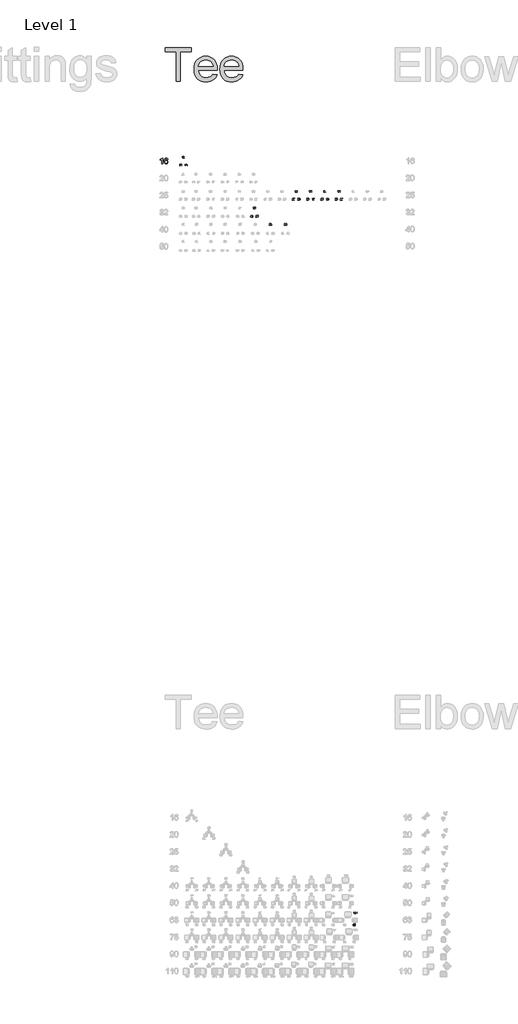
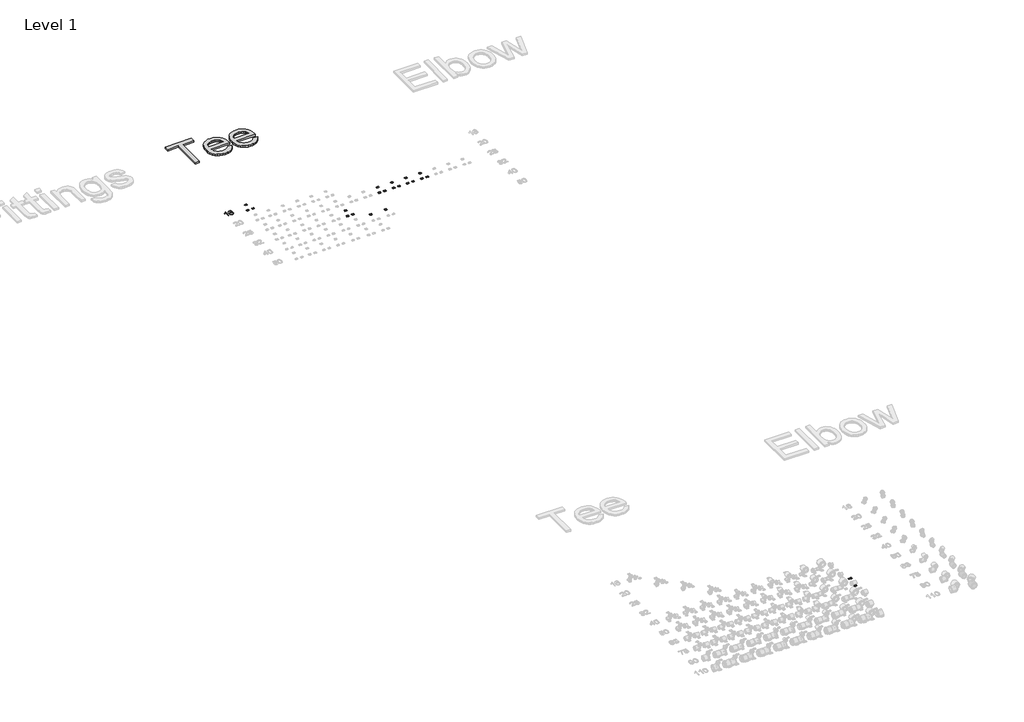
# One storey, part 31 of 58: 24 proxies.
"""IFC4 building model written with IfcOpenShell, lengths in millimetres."""

from ifc_helpers import new_model, si_unit, frame, origin, place, context, project, spatial, polyline, outline, extrude, element, save

model = new_model("IFC4")

# Units and contexts
model_context = context("Model", 3, world=origin())
ifc_project = project(units=[si_unit("LENGTHUNIT", "METRE", prefix="MILLI")], contexts=[model_context])

# Site, building, storey
site = spatial("IfcSite", under=ifc_project)
building = spatial("IfcBuilding", under=site)
storey = spatial("IfcBuildingStorey", under=building, Name="Level 1", Elevation=27.3876384)

# Proxies
placement = place(None, origin())
element("IfcBuildingElementProxy", 1, Name="100mm Arial", ObjectType="100mm Arial", at=placement, inside=storey, context=model_context, shape_type="SweptSolid", body=[
    extrude(outline(polyline([(12751.5703727, 30140.2967064), (12739.0133339, 30140.2967064), (12739.0133339, 30218.5819949), (12727.1184827, 30210.1084463), (12713.8992564, 30203.7686133), (12713.8992564, 30215.638939), (12732.3056189, 30227.3866373), (12743.4769688, 30240.7530165), (12751.5703727, 30240.7530165), (12751.5703727, 30140.2967064)])), frame((0.0, 0.0, 27.3876384), z_axis=(0.0, 0.0, 1.0), x_axis=(1.0, 0.0, 0.0)), (0.0, 0.0, 1.0), 2.0),
    extrude(outline(polyline([(12845.7481635, 30214.0693091), (12833.1911247, 30212.4996793), (12828.4331842, 30222.9720534), (12815.85162, 30228.1959777), (12804.5208545, 30225.1548199), (12795.949204, 30213.7382153), (12792.3807487, 30191.3587273), (12803.4539967, 30201.3773803), (12817.1759952, 30204.65153), (12828.7765407, 30202.4135812), (12838.5131509, 30195.6997348), (12845.1166327, 30185.4419585), (12847.3177933, 30172.5722201), (12843.1729895, 30155.2449781), (12831.7686476, 30142.9822449), (12815.3120597, 30138.7270765), (12801.0658295, 30141.5475051), (12789.7197356, 30150.008791), (12782.2977163, 30164.9448), (12779.8237099, 30187.189398), (12782.5705621, 30212.1992423), (12790.8111188, 30229.2996237), (12802.0621765, 30237.8896683), (12816.6364349, 30240.7530165), (12827.6545007, 30238.9810516), (12836.4775372, 30233.6651567), (12842.6579547, 30225.2222649), (12845.7481635, 30214.0693091)]), holes=[polyline([(12792.3807487, 30172.7684238), (12795.2870164, 30161.8913795), (12803.0125383, 30153.9941793), (12814.3310411, 30151.2841153), (12822.617583, 30152.6881982), (12829.13216, 30156.9004471), (12833.3536059, 30163.522323), (12834.7607545, 30172.1552871), (12833.372, 30180.4418291), (12829.2057364, 30186.7602023), (12822.5807948, 30190.760919), (12813.8160063, 30192.0944913), (12798.6224799, 30186.7602023), (12793.9411815, 30180.5951132), (12792.3807487, 30172.7684238)])]), frame((0.0, 0.0, 27.3876384), z_axis=(0.0, 0.0, 1.0), x_axis=(1.0, 0.0, 0.0)), (0.0, 0.0, 1.0), 2.0),
])
element("IfcBuildingElementProxy", 2, Name="30mm Arial", ObjectType="30mm Arial", at=placement, inside=storey, context=model_context, shape_type="SweptSolid", body=[
    extrude(outline(polyline([(13061.5669615, 30103.0942054), (13057.7998498, 30103.0942054), (13057.7998498, 30126.579792), (13054.2313945, 30124.0377274), (13050.2656266, 30122.1357775), (13050.2656266, 30125.6968752), (13055.7875353, 30129.2211847), (13059.1389403, 30133.2310985), (13061.5669615, 30133.2310985), (13061.5669615, 30103.0942054)])), frame((0.0, 0.0, 27.3876384), z_axis=(0.0, 0.0, 1.0), x_axis=(1.0, 0.0, 0.0)), (0.0, 0.0, 1.0), 2.0),
    extrude(outline(polyline([(13089.8202987, 30125.2259863), (13086.0531871, 30124.7550973), (13084.6258049, 30127.8968096), (13080.8513357, 30129.4639869), (13077.452106, 30128.5516395), (13074.8806109, 30125.1266581), (13073.8100743, 30118.4128117), (13077.1320487, 30121.4184076), (13081.2486482, 30122.4006525), (13087.6497949, 30119.715114), (13090.2911877, 30112.7768596), (13089.0477465, 30107.578687), (13085.626444, 30103.899867), (13080.6894676, 30102.6233165), (13073.0117703, 30106.0078308), (13070.0429626, 30117.1620129), (13073.3391853, 30129.7950807), (13081.0867801, 30133.2310985), (13087.0391108, 30131.1047406), (13089.8202987, 30125.2259863)]), holes=[polyline([(13073.8100743, 30112.8357207), (13074.6819546, 30109.5726074), (13076.9996112, 30107.2034473), (13080.395162, 30106.3904281), (13084.8354977, 30108.0753277), (13086.524076, 30112.6517797), (13084.8575706, 30117.0332542), (13080.2406516, 30118.6335409), (13075.6825936, 30117.0332542), (13073.8100743, 30112.8357207)])]), frame((0.0, 0.0, 27.3876384), z_axis=(0.0, 0.0, 1.0), x_axis=(1.0, 0.0, 0.0)), (0.0, 0.0, 1.0), 2.0),
])
element("IfcBuildingElementProxy", 3, Name="30mm Arial", ObjectType="30mm Arial", at=placement, inside=storey, context=model_context, shape_type="SweptSolid", body=[
    extrude(outline(polyline([(13155.3169615, 30103.0942054), (13151.5498498, 30103.0942054), (13151.5498498, 30126.579792), (13147.9813945, 30124.0377274), (13144.0156266, 30122.1357775), (13144.0156266, 30125.6968752), (13149.5375353, 30129.2211847), (13152.8889403, 30133.2310985), (13155.3169615, 30133.2310985), (13155.3169615, 30103.0942054)])), frame((0.0, 0.0, 27.3876384), z_axis=(0.0, 0.0, 1.0), x_axis=(1.0, 0.0, 0.0)), (0.0, 0.0, 1.0), 2.0),
    extrude(outline(polyline([(13183.5702987, 30125.2259863), (13179.8031871, 30124.7550973), (13178.3758049, 30127.8968096), (13174.6013357, 30129.4639869), (13171.202106, 30128.5516395), (13168.6306109, 30125.1266581), (13167.5600743, 30118.4128117), (13170.8820487, 30121.4184076), (13174.9986482, 30122.4006525), (13181.3997949, 30119.715114), (13184.0411877, 30112.7768596), (13182.7977465, 30107.578687), (13179.376444, 30103.899867), (13174.4394676, 30102.6233165), (13166.7617703, 30106.0078308), (13163.7929626, 30117.1620129), (13167.0891853, 30129.7950807), (13174.8367801, 30133.2310985), (13180.7891108, 30131.1047406), (13183.5702987, 30125.2259863)]), holes=[polyline([(13167.5600743, 30112.8357207), (13168.4319546, 30109.5726074), (13170.7496112, 30107.2034473), (13174.145162, 30106.3904281), (13178.5854977, 30108.0753277), (13180.274076, 30112.6517797), (13178.6075706, 30117.0332542), (13173.9906516, 30118.6335409), (13169.4325936, 30117.0332542), (13167.5600743, 30112.8357207)])]), frame((0.0, 0.0, 27.3876384), z_axis=(0.0, 0.0, 1.0), x_axis=(1.0, 0.0, 0.0)), (0.0, 0.0, 1.0), 2.0),
])
element("IfcBuildingElementProxy", 4, Name="30mm Arial", ObjectType="30mm Arial", at=placement, inside=storey, context=model_context, shape_type="SweptSolid", body=[
    extrude(outline(polyline([(13108.4951463, 30239.412846), (13104.7280347, 30239.412846), (13104.7280347, 30262.8984326), (13101.1595793, 30260.356368), (13097.1938114, 30258.4544181), (13097.1938114, 30262.0155158), (13102.7157201, 30265.5398253), (13106.0671251, 30269.549739), (13108.4951463, 30269.549739), (13108.4951463, 30239.412846)])), frame((0.0, 0.0, 27.3876384), z_axis=(0.0, 0.0, 1.0), x_axis=(1.0, 0.0, 0.0)), (0.0, 0.0, 1.0), 2.0),
    extrude(outline(polyline([(13136.7484835, 30261.5446268), (13132.9813719, 30261.0737379), (13131.5539897, 30264.2154501), (13127.7795205, 30265.7826274), (13124.3802908, 30264.8702801), (13121.8087957, 30261.4452987), (13120.7382591, 30254.7314523), (13124.0602335, 30257.7370482), (13128.176833, 30258.7192931), (13134.5779797, 30256.0337545), (13137.2193725, 30249.0955001), (13135.9759313, 30243.8973275), (13132.5546288, 30240.2185076), (13127.6176524, 30238.941957), (13119.9399552, 30242.3264714), (13116.9711475, 30253.4806535), (13120.2673701, 30266.1137212), (13128.0149649, 30269.549739), (13133.9672956, 30267.4233811), (13136.7484835, 30261.5446268)]), holes=[polyline([(13120.7382591, 30249.1543612), (13121.6101394, 30245.8912479), (13123.927796, 30243.5220879), (13127.3233468, 30242.7090687), (13131.7636825, 30244.3939682), (13133.4522608, 30248.9704202), (13131.7857554, 30253.3518948), (13127.1688364, 30254.9521815), (13122.6107784, 30253.3518948), (13120.7382591, 30249.1543612)])]), frame((0.0, 0.0, 27.3876384), z_axis=(0.0, 0.0, 1.0), x_axis=(1.0, 0.0, 0.0)), (0.0, 0.0, 1.0), 2.0),
])
element("IfcBuildingElementProxy", 5, Name="30mm Arial", ObjectType="30mm Arial", at=placement, inside=storey, context=model_context, shape_type="SweptSolid", body=[
    extrude(outline(polyline([(15053.1472365, 29506.8613171), (15053.1472365, 29503.0942054), (15033.3699005, 29503.0942054), (15033.7745707, 29505.6914523), (15036.0627967, 29509.6903296), (15040.7790438, 29514.0570889), (15047.2831975, 29520.3331557), (15048.9092359, 29524.6005869), (15047.375168, 29528.0549988), (15043.3689331, 29529.4639869), (15039.1934724, 29528.0881082), (15037.607901, 29524.2842084), (15033.8407894, 29524.7550973), (15036.7286631, 29531.0605947), (15043.4498671, 29533.2310985), (15050.1931441, 29530.8177926), (15052.6763476, 29524.8286737), (15052.0068023, 29521.2565395), (15049.7811163, 29517.5630043), (15044.3842874, 29512.4016199), (15040.0506375, 29508.7779823), (15038.3510227, 29506.8613171), (15053.1472365, 29506.8613171)])), frame((0.0, 0.0, 27.3876384), z_axis=(0.0, 0.0, 1.0), x_axis=(1.0, 0.0, 0.0)), (0.0, 0.0, 1.0), 2.0),
    extrude(outline(polyline([(15056.9143482, 29517.9198498), (15058.021673, 29526.5908285), (15061.310538, 29531.5903448), (15066.8030162, 29533.2310985), (15071.2028848, 29532.25989), (15074.2415901, 29529.460308), (15076.0074237, 29525.0015783), (15076.6916842, 29517.9198498), (15075.5953959, 29509.2856594), (15072.3175673, 29504.2751066), (15066.8030162, 29502.6233165), (15059.9162652, 29505.492796), (15056.9143482, 29517.9198498)]), holes=[polyline([(15060.6814598, 29517.9272075), (15062.4472934, 29508.5719683), (15066.8030162, 29506.3904281), (15071.158739, 29508.579326), (15072.9245726, 29517.9272075), (15071.2176001, 29527.1757608), (15066.7588703, 29529.4639869), (15062.5061545, 29527.4479935), (15060.6814598, 29517.9272075)])]), frame((0.0, 0.0, 27.3876384), z_axis=(0.0, 0.0, 1.0), x_axis=(1.0, 0.0, 0.0)), (0.0, 0.0, 1.0), 2.0),
])
element("IfcBuildingElementProxy", 6, Name="30mm Arial", ObjectType="30mm Arial", at=placement, inside=storey, context=model_context, shape_type="SweptSolid", body=[
    extrude(outline(polyline([(15146.8972365, 29506.8613171), (15146.8972365, 29503.0942054), (15127.1199005, 29503.0942054), (15127.5245707, 29505.6914523), (15129.8127967, 29509.6903296), (15134.5290438, 29514.0570889), (15141.0331975, 29520.3331557), (15142.6592359, 29524.6005869), (15141.125168, 29528.0549988), (15137.1189331, 29529.4639869), (15132.9434724, 29528.0881082), (15131.357901, 29524.2842084), (15127.5907894, 29524.7550973), (15130.4786631, 29531.0605947), (15137.1998671, 29533.2310985), (15143.9431441, 29530.8177926), (15146.4263476, 29524.8286737), (15145.7568023, 29521.2565395), (15143.5311163, 29517.5630043), (15138.1342874, 29512.4016199), (15133.8006375, 29508.7779823), (15132.1010227, 29506.8613171), (15146.8972365, 29506.8613171)])), frame((0.0, 0.0, 27.3876384), z_axis=(0.0, 0.0, 1.0), x_axis=(1.0, 0.0, 0.0)), (0.0, 0.0, 1.0), 2.0),
    extrude(outline(polyline([(15150.6643482, 29517.9198498), (15151.771673, 29526.5908285), (15155.060538, 29531.5903448), (15160.5530162, 29533.2310985), (15164.9528848, 29532.25989), (15167.9915901, 29529.460308), (15169.7574237, 29525.0015783), (15170.4416842, 29517.9198498), (15169.3453959, 29509.2856594), (15166.0675673, 29504.2751066), (15160.5530162, 29502.6233165), (15153.6662652, 29505.492796), (15150.6643482, 29517.9198498)]), holes=[polyline([(15154.4314598, 29517.9272075), (15156.1972934, 29508.5719683), (15160.5530162, 29506.3904281), (15164.908739, 29508.579326), (15166.6745726, 29517.9272075), (15164.9676001, 29527.1757608), (15160.5088703, 29529.4639869), (15156.2561545, 29527.4479935), (15154.4314598, 29517.9272075)])]), frame((0.0, 0.0, 27.3876384), z_axis=(0.0, 0.0, 1.0), x_axis=(1.0, 0.0, 0.0)), (0.0, 0.0, 1.0), 2.0),
])
element("IfcBuildingElementProxy", 7, Name="30mm Arial", ObjectType="30mm Arial", at=placement, inside=storey, context=model_context, shape_type="SweptSolid", body=[
    extrude(outline(polyline([(15100.0754213, 29643.1799576), (15100.0754213, 29639.412846), (15080.2980853, 29639.412846), (15080.7027555, 29642.0100929), (15082.9909815, 29646.0089702), (15087.7072287, 29650.3757295), (15094.2113823, 29656.6517963), (15095.8374207, 29660.9192274), (15094.3033528, 29664.3736394), (15090.2971179, 29665.7826274), (15086.1216573, 29664.4067488), (15084.5360859, 29660.6028489), (15080.7689742, 29661.0737379), (15083.6568479, 29667.3792353), (15090.3780519, 29669.549739), (15097.1213289, 29667.1364332), (15099.6045324, 29661.1473143), (15098.9349871, 29657.5751801), (15096.7093011, 29653.8816449), (15091.3124722, 29648.7202605), (15086.9788223, 29645.0966228), (15085.2792075, 29643.1799576), (15100.0754213, 29643.1799576)])), frame((0.0, 0.0, 27.3876384), z_axis=(0.0, 0.0, 1.0), x_axis=(1.0, 0.0, 0.0)), (0.0, 0.0, 1.0), 2.0),
    extrude(outline(polyline([(15103.842533, 29647.4179582), (15107.6096446, 29647.8888472), (15109.5079157, 29644.0076921), (15113.444253, 29642.7090687), (15118.1678579, 29644.5153693), (15119.8527574, 29649.3088717), (15118.2745436, 29653.7823167), (15113.5031142, 29655.4230704), (15110.195855, 29654.7682405), (15108.0805335, 29653.0686257), (15104.3134219, 29653.5395146), (15107.6096446, 29669.0788501), (15122.2072022, 29669.0788501), (15122.2072022, 29665.3117385), (15110.6557075, 29665.3117385), (15109.0443844, 29657.0123207), (15114.5552567, 29659.1901821), (15120.9968704, 29656.4899282), (15123.619869, 29649.5443161), (15121.2580666, 29642.5545582), (15113.4295378, 29638.941957), (15106.7819101, 29641.2632924), (15103.842533, 29647.4179582)])), frame((0.0, 0.0, 27.3876384), z_axis=(0.0, 0.0, 1.0), x_axis=(1.0, 0.0, 0.0)), (0.0, 0.0, 1.0), 2.0),
])
element("IfcBuildingElementProxy", 8, Name="30mm Arial", ObjectType="30mm Arial", at=placement, inside=storey, context=model_context, shape_type="SweptSolid", body=[
    extrude(outline(polyline([(15303.4273358, 29506.8613171), (15303.4273358, 29503.0942054), (15283.6499998, 29503.0942054), (15284.05467, 29505.6914523), (15286.342896, 29509.6903296), (15291.0591432, 29514.0570889), (15297.5632968, 29520.3331557), (15299.1893352, 29524.6005869), (15297.6552673, 29528.0549988), (15293.6490324, 29529.4639869), (15289.4735718, 29528.0881082), (15287.8880004, 29524.2842084), (15284.1208887, 29524.7550973), (15287.0087624, 29531.0605947), (15293.7299664, 29533.2310985), (15300.4732434, 29530.8177926), (15302.9564469, 29524.8286737), (15302.2869016, 29521.2565395), (15300.0612156, 29517.5630043), (15294.6643867, 29512.4016199), (15290.3307368, 29508.7779823), (15288.631122, 29506.8613171), (15303.4273358, 29506.8613171)])), frame((0.0, 0.0, 27.3876384), z_axis=(0.0, 0.0, 1.0), x_axis=(1.0, 0.0, 0.0)), (0.0, 0.0, 1.0), 2.0),
    extrude(outline(polyline([(15307.1944475, 29511.0993177), (15310.9615591, 29511.5702066), (15312.8598302, 29507.6890516), (15316.7961675, 29506.3904281), (15321.5197724, 29508.1967287), (15323.2046719, 29512.9902311), (15321.6264581, 29517.4636762), (15316.8550287, 29519.1044299), (15313.5477695, 29518.4495999), (15311.432448, 29516.7499851), (15307.6653364, 29517.2208741), (15310.9615591, 29532.7602095), (15325.5591167, 29532.7602095), (15325.5591167, 29528.9930979), (15314.007622, 29528.9930979), (15312.3962989, 29520.6936801), (15317.9071712, 29522.8715415), (15324.3487849, 29520.1712877), (15326.9717835, 29513.2256756), (15324.6099811, 29506.2359177), (15316.7814523, 29502.6233165), (15310.1338246, 29504.9446519), (15307.1944475, 29511.0993177)])), frame((0.0, 0.0, 27.3876384), z_axis=(0.0, 0.0, 1.0), x_axis=(1.0, 0.0, 0.0)), (0.0, 0.0, 1.0), 2.0),
])
element("IfcBuildingElementProxy", 9, Name="30mm Arial", ObjectType="30mm Arial", at=placement, inside=storey, context=model_context, shape_type="SweptSolid", body=[
    extrude(outline(polyline([(15391.9975573, 29503.0942054), (15388.2304457, 29503.0942054), (15388.2304457, 29526.579792), (15384.6619904, 29524.0377274), (15380.6962224, 29522.1357775), (15380.6962224, 29525.6968752), (15386.2181312, 29529.2211847), (15389.5695362, 29533.2310985), (15391.9975573, 29533.2310985), (15391.9975573, 29503.0942054)])), frame((0.0, 0.0, 27.3876384), z_axis=(0.0, 0.0, 1.0), x_axis=(1.0, 0.0, 0.0)), (0.0, 0.0, 1.0), 2.0),
    extrude(outline(polyline([(15420.2508946, 29525.2259863), (15416.4837829, 29524.7550973), (15415.0564008, 29527.8968096), (15411.2819315, 29529.4639869), (15407.8827019, 29528.5516395), (15405.3112067, 29525.1266581), (15404.2406701, 29518.4128117), (15407.5626446, 29521.4184076), (15411.6792441, 29522.4006525), (15418.0803908, 29519.715114), (15420.7217835, 29512.7768596), (15419.4783424, 29507.578687), (15416.0570398, 29503.899867), (15411.1200635, 29502.6233165), (15403.4423662, 29506.0078308), (15400.4735585, 29517.1620129), (15403.7697812, 29529.7950807), (15411.517376, 29533.2310985), (15417.4697067, 29531.1047406), (15420.2508946, 29525.2259863)]), holes=[polyline([(15404.2406701, 29512.8357207), (15405.1125505, 29509.5726074), (15407.430207, 29507.2034473), (15410.8257579, 29506.3904281), (15415.2660935, 29508.0753277), (15416.9546719, 29512.6517797), (15415.2881665, 29517.0332542), (15410.6712474, 29518.6335409), (15406.1131895, 29517.0332542), (15404.2406701, 29512.8357207)])]), frame((0.0, 0.0, 27.3876384), z_axis=(0.0, 0.0, 1.0), x_axis=(1.0, 0.0, 0.0)), (0.0, 0.0, 1.0), 2.0),
])
element("IfcBuildingElementProxy", 10, Name="30mm Arial", ObjectType="30mm Arial", at=placement, inside=storey, context=model_context, shape_type="SweptSolid", body=[
    extrude(outline(polyline([(15345.1757421, 29639.412846), (15341.4086305, 29639.412846), (15341.4086305, 29662.8984326), (15337.8401752, 29660.356368), (15333.8744073, 29658.4544181), (15333.8744073, 29662.0155158), (15339.396316, 29665.5398253), (15342.747721, 29669.549739), (15345.1757421, 29669.549739), (15345.1757421, 29639.412846)])), frame((0.0, 0.0, 27.3876384), z_axis=(0.0, 0.0, 1.0), x_axis=(1.0, 0.0, 0.0)), (0.0, 0.0, 1.0), 2.0),
    extrude(outline(polyline([(15373.4290794, 29661.5446268), (15369.6619677, 29661.0737379), (15368.2345856, 29664.2154501), (15364.4601163, 29665.7826274), (15361.0608867, 29664.8702801), (15358.4893916, 29661.4452987), (15357.4188549, 29654.7314523), (15360.7408294, 29657.7370482), (15364.8574289, 29658.7192931), (15371.2585756, 29656.0337545), (15373.8999683, 29649.0955001), (15372.6565272, 29643.8973275), (15369.2352246, 29640.2185076), (15364.2982483, 29638.941957), (15356.620551, 29642.3264714), (15353.6517433, 29653.4806535), (15356.947966, 29666.1137212), (15364.6955608, 29669.549739), (15370.6478915, 29667.4233811), (15373.4290794, 29661.5446268)]), holes=[polyline([(15357.4188549, 29649.1543612), (15358.2907353, 29645.8912479), (15360.6083918, 29643.5220879), (15364.0039427, 29642.7090687), (15368.4442783, 29644.3939682), (15370.1328567, 29648.9704202), (15368.4663513, 29653.3518948), (15363.8494322, 29654.9521815), (15359.2913743, 29653.3518948), (15357.4188549, 29649.1543612)])]), frame((0.0, 0.0, 27.3876384), z_axis=(0.0, 0.0, 1.0), x_axis=(1.0, 0.0, 0.0)), (0.0, 0.0, 1.0), 2.0),
])
element("IfcBuildingElementProxy", 11, Name="30mm Arial", ObjectType="30mm Arial", at=placement, inside=storey, context=model_context, shape_type="SweptSolid", body=[
    extrude(outline(polyline([(15553.7074351, 29506.8613171), (15553.7074351, 29503.0942054), (15533.9300991, 29503.0942054), (15534.3347693, 29505.6914523), (15536.6229953, 29509.6903296), (15541.3392425, 29514.0570889), (15547.8433961, 29520.3331557), (15549.4694346, 29524.6005869), (15547.9353666, 29528.0549988), (15543.9291317, 29529.4639869), (15539.7536711, 29528.0881082), (15538.1680997, 29524.2842084), (15534.400988, 29524.7550973), (15537.2888617, 29531.0605947), (15544.0100658, 29533.2310985), (15550.7533427, 29530.8177926), (15553.2365462, 29524.8286737), (15552.567001, 29521.2565395), (15550.3413149, 29517.5630043), (15544.944486, 29512.4016199), (15540.6108361, 29508.7779823), (15538.9112213, 29506.8613171), (15553.7074351, 29506.8613171)])), frame((0.0, 0.0, 27.3876384), z_axis=(0.0, 0.0, 1.0), x_axis=(1.0, 0.0, 0.0)), (0.0, 0.0, 1.0), 2.0),
    extrude(outline(polyline([(15557.4745468, 29511.0993177), (15561.2416584, 29511.5702066), (15563.1399295, 29507.6890516), (15567.0762668, 29506.3904281), (15571.7998717, 29508.1967287), (15573.4847712, 29512.9902311), (15571.9065574, 29517.4636762), (15567.135128, 29519.1044299), (15563.8278688, 29518.4495999), (15561.7125474, 29516.7499851), (15557.9454357, 29517.2208741), (15561.2416584, 29532.7602095), (15575.839216, 29532.7602095), (15575.839216, 29528.9930979), (15564.2877213, 29528.9930979), (15562.6763982, 29520.6936801), (15568.1872705, 29522.8715415), (15574.6288842, 29520.1712877), (15577.2518828, 29513.2256756), (15574.8900804, 29506.2359177), (15567.0615516, 29502.6233165), (15560.4139239, 29504.9446519), (15557.4745468, 29511.0993177)])), frame((0.0, 0.0, 27.3876384), z_axis=(0.0, 0.0, 1.0), x_axis=(1.0, 0.0, 0.0)), (0.0, 0.0, 1.0), 2.0),
])
element("IfcBuildingElementProxy", 12, Name="30mm Arial", ObjectType="30mm Arial", at=placement, inside=storey, context=model_context, shape_type="SweptSolid", body=[
    extrude(outline(polyline([(15642.2776567, 29503.0942054), (15638.510545, 29503.0942054), (15638.510545, 29526.579792), (15634.9420897, 29524.0377274), (15630.9763218, 29522.1357775), (15630.9763218, 29525.6968752), (15636.4982305, 29529.2211847), (15639.8496355, 29533.2310985), (15642.2776567, 29533.2310985), (15642.2776567, 29503.0942054)])), frame((0.0, 0.0, 27.3876384), z_axis=(0.0, 0.0, 1.0), x_axis=(1.0, 0.0, 0.0)), (0.0, 0.0, 1.0), 2.0),
    extrude(outline(polyline([(15670.5309939, 29525.2259863), (15666.7638823, 29524.7550973), (15665.3365001, 29527.8968096), (15661.5620308, 29529.4639869), (15658.1628012, 29528.5516395), (15655.5913061, 29525.1266581), (15654.5207695, 29518.4128117), (15657.8427439, 29521.4184076), (15661.9593434, 29522.4006525), (15668.3604901, 29519.715114), (15671.0018828, 29512.7768596), (15669.7584417, 29507.578687), (15666.3371391, 29503.899867), (15661.4001628, 29502.6233165), (15653.7224655, 29506.0078308), (15650.7536578, 29517.1620129), (15654.0498805, 29529.7950807), (15661.7974753, 29533.2310985), (15667.749806, 29531.1047406), (15670.5309939, 29525.2259863)]), holes=[polyline([(15654.5207695, 29512.8357207), (15655.3926498, 29509.5726074), (15657.7103064, 29507.2034473), (15661.1058572, 29506.3904281), (15665.5461928, 29508.0753277), (15667.2347712, 29512.6517797), (15665.5682658, 29517.0332542), (15660.9513467, 29518.6335409), (15656.3932888, 29517.0332542), (15654.5207695, 29512.8357207)])]), frame((0.0, 0.0, 27.3876384), z_axis=(0.0, 0.0, 1.0), x_axis=(1.0, 0.0, 0.0)), (0.0, 0.0, 1.0), 2.0),
])
element("IfcBuildingElementProxy", 13, Name="30mm Arial", ObjectType="30mm Arial", at=placement, inside=storey, context=model_context, shape_type="SweptSolid", body=[
    extrude(outline(polyline([(15600.6356199, 29643.1799576), (15600.6356199, 29639.412846), (15580.8582839, 29639.412846), (15581.2629541, 29642.0100929), (15583.5511801, 29646.0089702), (15588.2674273, 29650.3757295), (15594.7715809, 29656.6517963), (15596.3976194, 29660.9192274), (15594.8635514, 29664.3736394), (15590.8573165, 29665.7826274), (15586.6818559, 29664.4067488), (15585.0962845, 29660.6028489), (15581.3291728, 29661.0737379), (15584.2170465, 29667.3792353), (15590.9382506, 29669.549739), (15597.6815275, 29667.1364332), (15600.164731, 29661.1473143), (15599.4951858, 29657.5751801), (15597.2694997, 29653.8816449), (15591.8726708, 29648.7202605), (15587.5390209, 29645.0966228), (15585.8394061, 29643.1799576), (15600.6356199, 29643.1799576)])), frame((0.0, 0.0, 27.3876384), z_axis=(0.0, 0.0, 1.0), x_axis=(1.0, 0.0, 0.0)), (0.0, 0.0, 1.0), 2.0),
    extrude(outline(polyline([(15604.4027316, 29654.2384904), (15605.5100564, 29662.909469), (15608.7989214, 29667.9089853), (15614.2913996, 29669.549739), (15618.6912683, 29668.5785306), (15621.7299736, 29665.7789486), (15623.4958071, 29661.3202188), (15624.1800676, 29654.2384904), (15623.0837793, 29645.6043), (15619.8059507, 29640.5937472), (15614.2913996, 29638.941957), (15607.4046487, 29641.8114366), (15604.4027316, 29654.2384904)]), holes=[polyline([(15608.1698432, 29654.245848), (15609.9356768, 29644.8906089), (15614.2913996, 29642.7090687), (15618.6471224, 29644.8979666), (15620.412956, 29654.245848), (15618.7059836, 29663.4944014), (15614.2472538, 29665.7826274), (15609.9945379, 29663.7666341), (15608.1698432, 29654.245848)])]), frame((0.0, 0.0, 27.3876384), z_axis=(0.0, 0.0, 1.0), x_axis=(1.0, 0.0, 0.0)), (0.0, 0.0, 1.0), 2.0),
])
element("IfcBuildingElementProxy", 14, Name="30mm Arial", ObjectType="30mm Arial", at=placement, inside=storey, context=model_context, shape_type="SweptSolid", body=[
    extrude(outline(polyline([(15803.9875345, 29506.8613171), (15803.9875345, 29503.0942054), (15784.2101984, 29503.0942054), (15784.6148686, 29505.6914523), (15786.9030946, 29509.6903296), (15791.6193418, 29514.0570889), (15798.1234955, 29520.3331557), (15799.7495339, 29524.6005869), (15798.215466, 29528.0549988), (15794.209231, 29529.4639869), (15790.0337704, 29528.0881082), (15788.448199, 29524.2842084), (15784.6810873, 29524.7550973), (15787.568961, 29531.0605947), (15794.2901651, 29533.2310985), (15801.033442, 29530.8177926), (15803.5166455, 29524.8286737), (15802.8471003, 29521.2565395), (15800.6214142, 29517.5630043), (15795.2245853, 29512.4016199), (15790.8909354, 29508.7779823), (15789.1913206, 29506.8613171), (15803.9875345, 29506.8613171)])), frame((0.0, 0.0, 27.3876384), z_axis=(0.0, 0.0, 1.0), x_axis=(1.0, 0.0, 0.0)), (0.0, 0.0, 1.0), 2.0),
    extrude(outline(polyline([(15807.7546461, 29511.0993177), (15811.5217577, 29511.5702066), (15813.4200288, 29507.6890516), (15817.3563662, 29506.3904281), (15822.079971, 29508.1967287), (15823.7648705, 29512.9902311), (15822.1866568, 29517.4636762), (15817.4152273, 29519.1044299), (15814.1079681, 29518.4495999), (15811.9926467, 29516.7499851), (15808.225535, 29517.2208741), (15811.5217577, 29532.7602095), (15826.1193153, 29532.7602095), (15826.1193153, 29528.9930979), (15814.5678206, 29528.9930979), (15812.9564975, 29520.6936801), (15818.4673698, 29522.8715415), (15824.9089835, 29520.1712877), (15827.5319821, 29513.2256756), (15825.1701797, 29506.2359177), (15817.3416509, 29502.6233165), (15810.6940232, 29504.9446519), (15807.7546461, 29511.0993177)])), frame((0.0, 0.0, 27.3876384), z_axis=(0.0, 0.0, 1.0), x_axis=(1.0, 0.0, 0.0)), (0.0, 0.0, 1.0), 2.0),
])
element("IfcBuildingElementProxy", 15, Name="30mm Arial", ObjectType="30mm Arial", at=placement, inside=storey, context=model_context, shape_type="SweptSolid", body=[
    extrude(outline(polyline([(15897.7375345, 29506.8613171), (15897.7375345, 29503.0942054), (15877.9601984, 29503.0942054), (15878.3648686, 29505.6914523), (15880.6530946, 29509.6903296), (15885.3693418, 29514.0570889), (15891.8734955, 29520.3331557), (15893.4995339, 29524.6005869), (15891.965466, 29528.0549988), (15887.959231, 29529.4639869), (15883.7837704, 29528.0881082), (15882.198199, 29524.2842084), (15878.4310873, 29524.7550973), (15881.318961, 29531.0605947), (15888.0401651, 29533.2310985), (15894.783442, 29530.8177926), (15897.2666455, 29524.8286737), (15896.5971003, 29521.2565395), (15894.3714142, 29517.5630043), (15888.9745853, 29512.4016199), (15884.6409354, 29508.7779823), (15882.9413206, 29506.8613171), (15897.7375345, 29506.8613171)])), frame((0.0, 0.0, 27.3876384), z_axis=(0.0, 0.0, 1.0), x_axis=(1.0, 0.0, 0.0)), (0.0, 0.0, 1.0), 2.0),
    extrude(outline(polyline([(15901.5046461, 29517.9198498), (15902.6119709, 29526.5908285), (15905.9008359, 29531.5903448), (15911.3933141, 29533.2310985), (15915.7931828, 29532.25989), (15918.8318881, 29529.460308), (15920.5977216, 29525.0015783), (15921.2819821, 29517.9198498), (15920.1856938, 29509.2856594), (15916.9078652, 29504.2751066), (15911.3933141, 29502.6233165), (15904.5065632, 29505.492796), (15901.5046461, 29517.9198498)]), holes=[polyline([(15905.2717577, 29517.9272075), (15907.0375913, 29508.5719683), (15911.3933141, 29506.3904281), (15915.7490369, 29508.579326), (15917.5148705, 29517.9272075), (15915.8078981, 29527.1757608), (15911.3491683, 29529.4639869), (15907.0964524, 29527.4479935), (15905.2717577, 29517.9272075)])]), frame((0.0, 0.0, 27.3876384), z_axis=(0.0, 0.0, 1.0), x_axis=(1.0, 0.0, 0.0)), (0.0, 0.0, 1.0), 2.0),
])
element("IfcBuildingElementProxy", 16, Name="30mm Arial", ObjectType="30mm Arial", at=placement, inside=storey, context=model_context, shape_type="SweptSolid", body=[
    extrude(outline(polyline([(15845.7359408, 29639.412846), (15841.9688291, 29639.412846), (15841.9688291, 29662.8984326), (15838.4003738, 29660.356368), (15834.4346059, 29658.4544181), (15834.4346059, 29662.0155158), (15839.9565146, 29665.5398253), (15843.3079196, 29669.549739), (15845.7359408, 29669.549739), (15845.7359408, 29639.412846)])), frame((0.0, 0.0, 27.3876384), z_axis=(0.0, 0.0, 1.0), x_axis=(1.0, 0.0, 0.0)), (0.0, 0.0, 1.0), 2.0),
    extrude(outline(polyline([(15873.989278, 29661.5446268), (15870.2221664, 29661.0737379), (15868.7947842, 29664.2154501), (15865.020315, 29665.7826274), (15861.6210853, 29664.8702801), (15859.0495902, 29661.4452987), (15857.9790536, 29654.7314523), (15861.301028, 29657.7370482), (15865.4176275, 29658.7192931), (15871.8187742, 29656.0337545), (15874.460167, 29649.0955001), (15873.2167258, 29643.8973275), (15869.7954233, 29640.2185076), (15864.8584469, 29638.941957), (15857.1807496, 29642.3264714), (15854.2119419, 29653.4806535), (15857.5081646, 29666.1137212), (15865.2557594, 29669.549739), (15871.2080901, 29667.4233811), (15873.989278, 29661.5446268)]), holes=[polyline([(15857.9790536, 29649.1543612), (15858.8509339, 29645.8912479), (15861.1685905, 29643.5220879), (15864.5641413, 29642.7090687), (15869.004477, 29644.3939682), (15870.6930553, 29648.9704202), (15869.0265499, 29653.3518948), (15864.4096308, 29654.9521815), (15859.8515729, 29653.3518948), (15857.9790536, 29649.1543612)])]), frame((0.0, 0.0, 27.3876384), z_axis=(0.0, 0.0, 1.0), x_axis=(1.0, 0.0, 0.0)), (0.0, 0.0, 1.0), 2.0),
])
element("IfcBuildingElementProxy", 17, Name="30mm Arial", ObjectType="30mm Arial", at=placement, inside=storey, context=model_context, shape_type="SweptSolid", body=[
    extrude(outline(polyline([(14624.648577, 29069.9179582), (14628.4156886, 29070.3888472), (14630.4942219, 29066.4230793), (14634.3827346, 29065.2090687), (14638.9591866, 29066.8792529), (14640.6588014, 29071.0142466), (14638.9739019, 29074.9101169), (14634.6917554, 29076.4515425), (14632.0503627, 29076.0395146), (14632.4697482, 29079.8066262), (14637.3478635, 29080.8440535), (14639.2461345, 29084.1697067), (14637.8702559, 29087.1164415), (14634.3238735, 29088.2826274), (14630.7333452, 29087.105405), (14628.8865776, 29083.5737379), (14625.1194659, 29084.0446268), (14628.2023171, 29089.9528117), (14634.1914359, 29092.049739), (14638.7347786, 29091.0159906), (14641.913279, 29088.1906569), (14643.0132462, 29084.3904359), (14641.9684613, 29080.9176299), (14638.8782526, 29078.4233899), (14642.9838156, 29075.848216), (14644.425913, 29070.9480278), (14641.5417182, 29064.2084297), (14634.2502971, 29061.441957), (14627.6431364, 29063.8037595), (14624.648577, 29069.9179582)])), frame((0.0, 0.0, 27.3876384), z_axis=(0.0, 0.0, 1.0), x_axis=(1.0, 0.0, 0.0)), (0.0, 0.0, 1.0), 2.0),
    extrude(outline(polyline([(14667.0285828, 29065.6799576), (14667.0285828, 29061.912846), (14647.2512468, 29061.912846), (14647.655917, 29064.5100929), (14649.944143, 29068.5089702), (14654.6603901, 29072.8757295), (14661.1645438, 29079.1517963), (14662.7905822, 29083.4192274), (14661.2565143, 29086.8736394), (14657.2502794, 29088.2826274), (14653.0748187, 29086.9067488), (14651.4892473, 29083.1028489), (14647.7221357, 29083.5737379), (14650.6100094, 29089.8792353), (14657.3312134, 29092.049739), (14664.0744904, 29089.6364332), (14666.5576939, 29083.6473143), (14665.8881486, 29080.0751801), (14663.6624626, 29076.3816449), (14658.2656337, 29071.2202605), (14653.9319838, 29067.5966228), (14652.232369, 29065.6799576), (14667.0285828, 29065.6799576)])), frame((0.0, 0.0, 27.3876384), z_axis=(0.0, 0.0, 1.0), x_axis=(1.0, 0.0, 0.0)), (0.0, 0.0, 1.0), 2.0),
])
element("IfcBuildingElementProxy", 18, Name="30mm Arial", ObjectType="30mm Arial", at=placement, inside=storey, context=model_context, shape_type="SweptSolid", body=[
    extrude(outline(polyline([(14889.648577, 29069.9179582), (14893.4156886, 29070.3888472), (14895.4942219, 29066.4230793), (14899.3827346, 29065.2090687), (14903.9591866, 29066.8792529), (14905.6588014, 29071.0142466), (14903.9739019, 29074.9101169), (14899.6917554, 29076.4515425), (14897.0503627, 29076.0395146), (14897.4697482, 29079.8066262), (14902.3478635, 29080.8440535), (14904.2461345, 29084.1697067), (14902.8702559, 29087.1164415), (14899.3238735, 29088.2826274), (14895.7333452, 29087.105405), (14893.8865776, 29083.5737379), (14890.1194659, 29084.0446268), (14893.2023171, 29089.9528117), (14899.1914359, 29092.049739), (14903.7347786, 29091.0159906), (14906.913279, 29088.1906569), (14908.0132462, 29084.3904359), (14906.9684613, 29080.9176299), (14903.8782526, 29078.4233899), (14907.9838156, 29075.848216), (14909.425913, 29070.9480278), (14906.5417182, 29064.2084297), (14899.2502971, 29061.441957), (14892.6431364, 29063.8037595), (14889.648577, 29069.9179582)])), frame((0.0, 0.0, 27.3876384), z_axis=(0.0, 0.0, 1.0), x_axis=(1.0, 0.0, 0.0)), (0.0, 0.0, 1.0), 2.0),
    extrude(outline(polyline([(14932.0285828, 29065.6799576), (14932.0285828, 29061.912846), (14912.2512468, 29061.912846), (14912.655917, 29064.5100929), (14914.944143, 29068.5089702), (14919.6603901, 29072.8757295), (14926.1645438, 29079.1517963), (14927.7905822, 29083.4192274), (14926.2565143, 29086.8736394), (14922.2502794, 29088.2826274), (14918.0748187, 29086.9067488), (14916.4892473, 29083.1028489), (14912.7221357, 29083.5737379), (14915.6100094, 29089.8792353), (14922.3312134, 29092.049739), (14929.0744904, 29089.6364332), (14931.5576939, 29083.6473143), (14930.8881486, 29080.0751801), (14928.6624626, 29076.3816449), (14923.2656337, 29071.2202605), (14918.9319838, 29067.5966228), (14917.232369, 29065.6799576), (14932.0285828, 29065.6799576)])), frame((0.0, 0.0, 27.3876384), z_axis=(0.0, 0.0, 1.0), x_axis=(1.0, 0.0, 0.0)), (0.0, 0.0, 1.0), 2.0),
])
element("IfcBuildingElementProxy", 19, Name="30mm Arial", ObjectType="30mm Arial", at=placement, inside=storey, context=model_context, shape_type="SweptSolid", body=[
    extrude(outline(polyline([(16116.5918771, 16774.7106348), (16112.8247655, 16774.2397458), (16111.3973834, 16777.381458), (16107.6229141, 16778.9486353), (16104.2236845, 16778.036288), (16101.6521893, 16774.6113066), (16100.5816527, 16767.8974602), (16103.9036271, 16770.9030561), (16108.0202266, 16771.885301), (16114.4213734, 16769.1997625), (16117.0627661, 16762.261508), (16115.8193249, 16757.0633355), (16112.3980224, 16753.3845155), (16107.461046, 16752.107965), (16099.7833488, 16755.4924793), (16096.8145411, 16766.6466614), (16100.1107637, 16779.2797291), (16107.8583586, 16782.715747), (16113.8106892, 16780.589389), (16116.5918771, 16774.7106348)]), holes=[polyline([(16100.5816527, 16762.3203692), (16101.453533, 16759.0572559), (16103.7711896, 16756.6880958), (16107.1667404, 16755.8750766), (16111.6070761, 16757.5599761), (16113.2956545, 16762.1364282), (16111.629149, 16766.5179027), (16107.01223, 16768.1181894), (16102.4541721, 16766.5179027), (16100.5816527, 16762.3203692)])]), frame((0.0, 0.0, 27.3876384), z_axis=(0.0, 0.0, 1.0), x_axis=(1.0, 0.0, 0.0)), (0.0, 0.0, 1.0), 2.0),
    extrude(outline(polyline([(16120.3589888, 16760.5839661), (16124.1261004, 16761.0548551), (16126.2046337, 16757.0890872), (16130.0931464, 16755.8750766), (16134.6695984, 16757.5452609), (16136.3692132, 16761.6802545), (16134.6843137, 16765.5761248), (16130.4021672, 16767.1175504), (16127.7607745, 16766.7055225), (16128.18016, 16770.4726342), (16133.0582752, 16771.5100614), (16134.9565463, 16774.8357146), (16133.5806677, 16777.7824494), (16130.0342852, 16778.9486353), (16126.443757, 16777.771413), (16124.5969893, 16774.2397458), (16120.8298777, 16774.7106348), (16123.9127288, 16780.6188196), (16129.9018477, 16782.715747), (16134.4451904, 16781.6819986), (16137.6236908, 16778.8566648), (16138.723658, 16775.0564438), (16137.6788731, 16771.5836378), (16134.5886643, 16769.0893979), (16138.6942274, 16766.5142239), (16140.1363248, 16761.6140357), (16137.25213, 16754.8744376), (16129.9607088, 16752.107965), (16123.3535482, 16754.4697674), (16120.3589888, 16760.5839661)])), frame((0.0, 0.0, 27.3876384), z_axis=(0.0, 0.0, 1.0), x_axis=(1.0, 0.0, 0.0)), (0.0, 0.0, 1.0), 2.0),
])
element("IfcBuildingElementProxy", 20, Name="30mm Arial", ObjectType="30mm Arial", at=placement, inside=storey, context=model_context, shape_type="SweptSolid", body=[
    extrude(outline(polyline([(16121.4306816, 16959.8803264), (16117.6635699, 16959.8803264), (16117.6635699, 16983.365913), (16114.0951146, 16980.8238484), (16110.1293467, 16978.9218985), (16110.1293467, 16982.4829962), (16115.6512554, 16986.0073057), (16119.0026604, 16990.0172195), (16121.4306816, 16990.0172195), (16121.4306816, 16959.8803264)])), frame((0.0, 0.0, 27.3876384), z_axis=(0.0, 0.0, 1.0), x_axis=(1.0, 0.0, 0.0)), (0.0, 0.0, 1.0), 2.0),
    extrude(outline(polyline([(16144.5042403, 16959.8803264), (16140.7371287, 16959.8803264), (16140.7371287, 16983.365913), (16137.1686733, 16980.8238484), (16133.2029054, 16978.9218985), (16133.2029054, 16982.4829962), (16138.7248142, 16986.0073057), (16142.0762191, 16990.0172195), (16144.5042403, 16990.0172195), (16144.5042403, 16959.8803264)])), frame((0.0, 0.0, 27.3876384), z_axis=(0.0, 0.0, 1.0), x_axis=(1.0, 0.0, 0.0)), (0.0, 0.0, 1.0), 2.0),
    extrude(outline(polyline([(16153.4511304, 16974.7059708), (16154.5584552, 16983.3769495), (16157.8473203, 16988.3764658), (16163.3397984, 16990.0172195), (16167.7396671, 16989.046011), (16170.7783724, 16986.246429), (16172.544206, 16981.7876992), (16173.2284665, 16974.7059708), (16172.1321781, 16966.0717804), (16168.8543496, 16961.0612276), (16163.3397984, 16959.4094375), (16156.4530475, 16962.278917), (16153.4511304, 16974.7059708)]), holes=[polyline([(16157.218242, 16974.7133285), (16158.9840756, 16965.3580893), (16163.3397984, 16963.1765491), (16167.6955213, 16965.365447), (16169.4613548, 16974.7133285), (16167.7543824, 16983.9618818), (16163.2956526, 16986.2501078), (16159.0429367, 16984.2341145), (16157.218242, 16974.7133285)])]), frame((0.0, 0.0, 27.3876384), z_axis=(0.0, 0.0, 1.0), x_axis=(1.0, 0.0, 0.0)), (0.0, 0.0, 1.0), 2.0),
])
element("IfcBuildingElementProxy", 21, Name="30mm Arial", ObjectType="30mm Arial", at=placement, inside=storey, context=model_context, shape_type="SweptSolid", body=[
    extrude(outline(polyline([(14297.7203922, 29211.0993177), (14301.4875038, 29211.5702066), (14303.5660371, 29207.6044387), (14307.4545498, 29206.3904281), (14312.0310018, 29208.0606124), (14313.7306166, 29212.195606), (14312.0457171, 29216.0914763), (14307.7635706, 29217.6329019), (14305.1221779, 29217.2208741), (14305.5415634, 29220.9879857), (14310.4196786, 29222.0254129), (14312.3179497, 29225.3510661), (14310.9420711, 29228.2978009), (14307.3956886, 29229.4639869), (14303.8051604, 29228.2867645), (14301.9583928, 29224.7550973), (14298.1912811, 29225.2259863), (14301.2741322, 29231.1341711), (14307.2632511, 29233.2310985), (14311.8065938, 29232.1973501), (14314.9850942, 29229.3720164), (14316.0850614, 29225.5717953), (14315.0402765, 29222.0989893), (14311.9500677, 29219.6047494), (14316.0556308, 29217.0295754), (14317.4977282, 29212.1293872), (14314.6135334, 29205.3897891), (14307.3221122, 29202.6233165), (14300.7149516, 29204.9851189), (14297.7203922, 29211.0993177)])), frame((0.0, 0.0, 27.3876384), z_axis=(0.0, 0.0, 1.0), x_axis=(1.0, 0.0, 0.0)), (0.0, 0.0, 1.0), 2.0),
    extrude(outline(polyline([(14340.100398, 29206.8613171), (14340.100398, 29203.0942054), (14320.323062, 29203.0942054), (14320.7277322, 29205.6914523), (14323.0159582, 29209.6903296), (14327.7322053, 29214.0570889), (14334.236359, 29220.3331557), (14335.8623974, 29224.6005869), (14334.3283295, 29228.0549988), (14330.3220946, 29229.4639869), (14326.1466339, 29228.0881082), (14324.5610625, 29224.2842084), (14320.7939509, 29224.7550973), (14323.6818246, 29231.0605947), (14330.4030286, 29233.2310985), (14337.1463056, 29230.8177926), (14339.6295091, 29224.8286737), (14338.9599638, 29221.2565395), (14336.7342778, 29217.5630043), (14331.3374489, 29212.4016199), (14327.003799, 29208.7779823), (14325.3041842, 29206.8613171), (14340.100398, 29206.8613171)])), frame((0.0, 0.0, 27.3876384), z_axis=(0.0, 0.0, 1.0), x_axis=(1.0, 0.0, 0.0)), (0.0, 0.0, 1.0), 2.0),
])
element("IfcBuildingElementProxy", 22, Name="30mm Arial", ObjectType="30mm Arial", at=placement, inside=storey, context=model_context, shape_type="SweptSolid", body=[
    extrude(outline(polyline([(14410.7768393, 29206.8613171), (14410.7768393, 29203.0942054), (14390.9995032, 29203.0942054), (14391.4041734, 29205.6914523), (14393.6923994, 29209.6903296), (14398.4086466, 29214.0570889), (14404.9128003, 29220.3331557), (14406.5388387, 29224.6005869), (14405.0047708, 29228.0549988), (14400.9985358, 29229.4639869), (14396.8230752, 29228.0881082), (14395.2375038, 29224.2842084), (14391.4703922, 29224.7550973), (14394.3582658, 29231.0605947), (14401.0794699, 29233.2310985), (14407.8227469, 29230.8177926), (14410.3059503, 29224.8286737), (14409.6364051, 29221.2565395), (14407.410719, 29217.5630043), (14402.0138902, 29212.4016199), (14397.6802403, 29208.7779823), (14395.9806254, 29206.8613171), (14410.7768393, 29206.8613171)])), frame((0.0, 0.0, 27.3876384), z_axis=(0.0, 0.0, 1.0), x_axis=(1.0, 0.0, 0.0)), (0.0, 0.0, 1.0), 2.0),
    extrude(outline(polyline([(14414.5439509, 29211.0993177), (14418.3110625, 29211.5702066), (14420.2093336, 29207.6890516), (14424.145671, 29206.3904281), (14428.8692758, 29208.1967287), (14430.5541753, 29212.9902311), (14428.9759616, 29217.4636762), (14424.2045321, 29219.1044299), (14420.897273, 29218.4495999), (14418.7819515, 29216.7499851), (14415.0148399, 29217.2208741), (14418.3110625, 29232.7602095), (14432.9086201, 29232.7602095), (14432.9086201, 29228.9930979), (14421.3571255, 29228.9930979), (14419.7458023, 29220.6936801), (14425.2566746, 29222.8715415), (14431.6982883, 29220.1712877), (14434.321287, 29213.2256756), (14431.9594846, 29206.2359177), (14424.1309557, 29202.6233165), (14417.4833281, 29204.9446519), (14414.5439509, 29211.0993177)])), frame((0.0, 0.0, 27.3876384), z_axis=(0.0, 0.0, 1.0), x_axis=(1.0, 0.0, 0.0)), (0.0, 0.0, 1.0), 2.0),
])
element("IfcBuildingElementProxy", 23, Name="30mm Arial", ObjectType="30mm Arial", at=placement, inside=storey, context=model_context, shape_type="SweptSolid", body=[
    extrude(outline(polyline([(14363.9550241, 29350.6799576), (14363.9550241, 29346.912846), (14344.177688, 29346.912846), (14344.5823582, 29349.5100929), (14346.8705842, 29353.5089702), (14351.5868314, 29357.8757295), (14358.0909851, 29364.1517963), (14359.7170235, 29368.4192274), (14358.1829556, 29371.8736394), (14354.1767207, 29373.2826274), (14350.00126, 29371.9067488), (14348.4156886, 29368.1028489), (14344.648577, 29368.5737379), (14347.5364506, 29374.8792353), (14354.2576547, 29377.049739), (14361.0009317, 29374.6364332), (14363.4841351, 29368.6473143), (14362.8145899, 29365.0751801), (14360.5889038, 29361.3816449), (14355.192075, 29356.2202605), (14350.8584251, 29352.5966228), (14349.1588102, 29350.6799576), (14363.9550241, 29350.6799576)])), frame((0.0, 0.0, 27.3876384), z_axis=(0.0, 0.0, 1.0), x_axis=(1.0, 0.0, 0.0)), (0.0, 0.0, 1.0), 2.0),
    extrude(outline(polyline([(14367.7221357, 29354.9179582), (14371.4892473, 29355.3888472), (14373.3875184, 29351.5076921), (14377.3238558, 29350.2090687), (14382.0474606, 29352.0153693), (14383.7323601, 29356.8088717), (14382.1541464, 29361.2823167), (14377.3827169, 29362.9230704), (14374.0754578, 29362.2682405), (14371.9601363, 29360.5686257), (14368.1930247, 29361.0395146), (14371.4892473, 29376.5788501), (14386.0868049, 29376.5788501), (14386.0868049, 29372.8117385), (14374.5353103, 29372.8117385), (14372.9239871, 29364.5123207), (14378.4348594, 29366.6901821), (14384.8764732, 29363.9899282), (14387.4994718, 29357.0443161), (14385.1376694, 29350.0545582), (14377.3091405, 29346.441957), (14370.6615129, 29348.7632924), (14367.7221357, 29354.9179582)])), frame((0.0, 0.0, 27.3876384), z_axis=(0.0, 0.0, 1.0), x_axis=(1.0, 0.0, 0.0)), (0.0, 0.0, 1.0), 2.0),
])
element("IfcBuildingElementProxy", 24, Name="600mm Arial", ObjectType="600mm Arial", at=placement, inside=storey, context=model_context, shape_type="SweptSolid", body=[
    extrude(outline(polyline([(12993.1260296, 31587.8685592), (12993.1260296, 32104.7916361), (12799.2798757, 32104.7916361), (12799.2798757, 32178.63779), (13260.8183372, 32178.63779), (13260.8183372, 32104.7916361), (13066.9721834, 32104.7916361), (13066.9721834, 31587.8685592), (12993.1260296, 31587.8685592)])), frame((0.0, 0.0, 27.3876384), z_axis=(0.0, 0.0, 1.0), x_axis=(1.0, 0.0, 0.0)), (0.0, 0.0, 1.0), 30.0),
    extrude(outline(polyline([(13638.4144911, 31717.0993284), (13710.8183372, 31707.8685592), (13699.7170752, 31678.8691602), (13684.7305969, 31653.3132707), (13665.8589022, 31631.2008909), (13643.1019911, 31612.5320207), (13616.6942387, 31597.7032948), (13586.8700199, 31587.1113477), (13553.6293348, 31580.7561794), (13516.9721834, 31578.63779), (13471.1518709, 31582.2931385), (13430.3255488, 31593.2591842), (13394.4932171, 31611.535927), (13363.6548757, 31637.1233669), (13338.8561978, 31669.3093645), (13321.1428565, 31707.3817803), (13310.5148517, 31751.3406145), (13306.9721834, 31801.1858669), (13310.5509094, 31852.7213236), (13321.2870872, 31898.1450015), (13339.1807171, 31937.4569005), (13364.2317988, 31970.6570207), (13394.9890103, 31997.0332227), (13430.0010296, 32015.8733669), (13469.2678565, 32027.1774534), (13512.7894911, 32030.9454823), (13554.9093829, 32027.1864678), (13592.9998276, 32015.9094246), (13627.0608252, 31997.1143525), (13657.0923757, 31970.8012515), (13681.6070993, 31937.6732467), (13699.1176161, 31898.433463), (13709.6239262, 31853.0819005), (13713.1260296, 31801.6185592), (13712.6933372, 31781.714713), (13380.8183372, 31781.714713), (13385.095681, 31752.246564), (13393.6007892, 31726.4382707), (13406.3336618, 31704.2898332), (13423.2942988, 31685.8012515), (13443.5452002, 31671.2249294), (13466.1488661, 31660.8132707), (13491.1052964, 31654.5662755), (13518.4144911, 31652.4839438), (13557.7173757, 31656.3421169), (13590.8183372, 31667.9166361), (13617.7173757, 31687.9286553), (13638.4144911, 31717.0993284)]), holes=[polyline([(13380.8183372, 31855.5608669), (13639.2798757, 31855.5608669), (13629.2918949, 31894.57529), (13620.7011497, 31909.917838), (13609.712568, 31922.4839438), (13589.5743469, 31937.6281746), (13566.6596834, 31948.4454823), (13540.9685776, 31954.9358669), (13512.5010296, 31957.0993284), (13486.5349839, 31955.3730664), (13462.7233853, 31950.1942803), (13441.0662339, 31941.5629703), (13421.5635296, 31929.4791361), (13405.1978445, 31914.5016722), (13392.9517507, 31897.1894727), (13384.8252483, 31877.5425376), (13380.8183372, 31855.5608669)])]), frame((0.0, 0.0, 27.3876384), z_axis=(0.0, 0.0, 1.0), x_axis=(1.0, 0.0, 0.0)), (0.0, 0.0, 1.0), 30.0),
    extrude(outline(polyline([(14090.7221834, 31717.0993284), (14163.1260296, 31707.8685592), (14152.0247675, 31678.8691602), (14137.0382892, 31653.3132707), (14118.1665945, 31631.2008909), (14095.4096834, 31612.5320207), (14069.001931, 31597.7032948), (14039.1777122, 31587.1113477), (14005.9370272, 31580.7561794), (13969.2798757, 31578.63779), (13923.4595632, 31582.2931385), (13882.6332411, 31593.2591842), (13846.8009094, 31611.535927), (13815.962568, 31637.1233669), (13791.1638901, 31669.3093645), (13773.4505488, 31707.3817803), (13762.822544, 31751.3406145), (13759.2798757, 31801.1858669), (13762.8586017, 31852.7213236), (13773.5947796, 31898.1450015), (13791.4884094, 31937.4569005), (13816.5394911, 31970.6570207), (13847.2967026, 31997.0332227), (13882.3087219, 32015.8733669), (13921.5755488, 32027.1774534), (13965.0971834, 32030.9454823), (14007.2170752, 32027.1864678), (14045.3075199, 32015.9094246), (14079.3685175, 31997.1143525), (14109.400068, 31970.8012515), (14133.9147916, 31937.6732467), (14151.4253084, 31898.433463), (14161.9316185, 31853.0819005), (14165.4337219, 31801.6185592), (14165.0010296, 31781.714713), (13833.1260296, 31781.714713), (13837.4033733, 31752.246564), (13845.9084815, 31726.4382707), (13858.6413541, 31704.2898332), (13875.6019911, 31685.8012515), (13895.8528925, 31671.2249294), (13918.4565584, 31660.8132707), (13943.4129887, 31654.5662755), (13970.7221834, 31652.4839438), (14010.025068, 31656.3421169), (14043.1260296, 31667.9166361), (14070.025068, 31687.9286553), (14090.7221834, 31717.0993284)]), holes=[polyline([(13833.1260296, 31855.5608669), (14091.587568, 31855.5608669), (14081.5995872, 31894.57529), (14073.0088421, 31909.917838), (14062.0202603, 31922.4839438), (14041.8820392, 31937.6281746), (14018.9673757, 31948.4454823), (13993.2762699, 31954.9358669), (13964.8087219, 31957.0993284), (13938.8426762, 31955.3730664), (13915.0310776, 31950.1942803), (13893.3739262, 31941.5629703), (13873.8712219, 31929.4791361), (13857.5055368, 31914.5016722), (13845.259443, 31897.1894727), (13837.1329406, 31877.5425376), (13833.1260296, 31855.5608669)])]), frame((0.0, 0.0, 27.3876384), z_axis=(0.0, 0.0, 1.0), x_axis=(1.0, 0.0, 0.0)), (0.0, 0.0, 1.0), 30.0),
])

save(model, "model.ifc")
